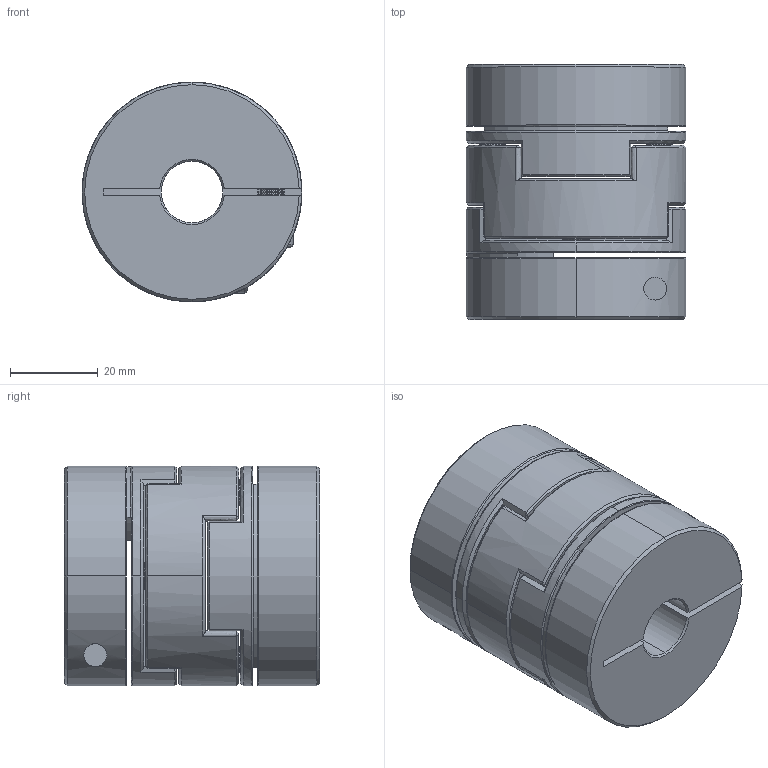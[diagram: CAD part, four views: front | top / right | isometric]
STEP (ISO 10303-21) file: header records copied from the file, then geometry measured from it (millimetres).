
FILE_DESCRIPTION (( 'STEP AP203' ), '1' );
FILE_NAME ('LZ-B-D50L58-14-24.STEP', '2021-10-29T08:10:41', ( '' ), ( '' ), 'SwSTEP 2.0', 'SolidWorks 2018', '' );
FILE_SCHEMA (( 'CONFIG_CONTROL_DESIGN' ));
Length unit declared in the file: millimetre
Products named in the file (1): LZ-B-D50L58-14-24
Bounding box: 50 x 58 x 50 mm (x, y, z)
Volume: 88251.4 mm3; surface area: 29710.5 mm2
Topology: 1 solids, 27 shells, 561 faces, 1370 edges, 814 vertices
Faces by surface type: cone 252, cylinder 160, plane 91, bspline 54, torus 4
Entity records: 17482 total; most frequent: CARTESIAN_POINT 4365, DIRECTION 2786, ORIENTED_EDGE 2732, EDGE_CURVE 1366, AXIS2_PLACEMENT_3D 1124, VERTEX_POINT 814, CIRCLE 616, EDGE_LOOP 594
